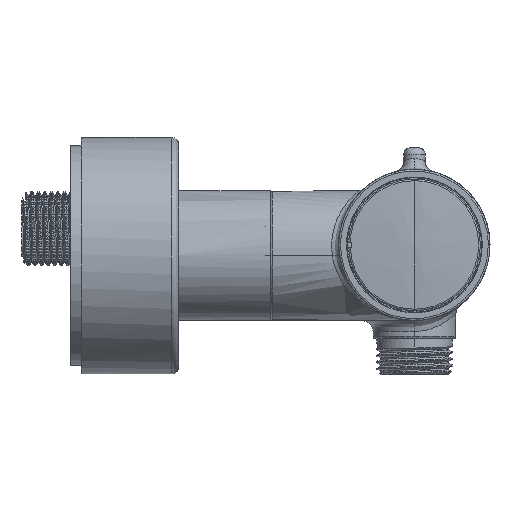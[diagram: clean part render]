
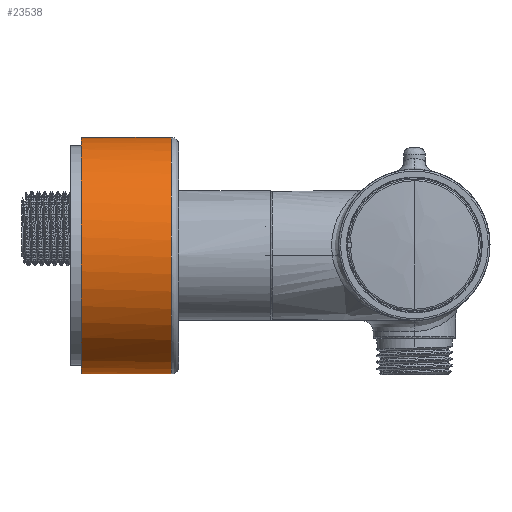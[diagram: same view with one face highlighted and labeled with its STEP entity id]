
A CAD part, left-side view. The second image highlights one B-rep face of the part: STEP entity #23538.
In plain terms, the highlighted free-form (B-spline) face has degree [2, 1] with [9, 2] control points.
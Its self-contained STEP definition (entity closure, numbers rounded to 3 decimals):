
#23538=ADVANCED_FACE('',(#31664),#229497,.T.);
#31664=FACE_OUTER_BOUND('',#39759,.T.);
#39759=EDGE_LOOP('',(#47911,#47912,#47913,#47914));
#47911=ORIENTED_EDGE('',*,*,#95623,.T.);
#47912=ORIENTED_EDGE('',*,*,#95626,.T.);
#47913=ORIENTED_EDGE('',*,*,#95625,.T.);
#47914=ORIENTED_EDGE('',*,*,#95624,.T.);
#95623=EDGE_CURVE('',#184997,#184998,#184213,.T.);
#95624=EDGE_CURVE('',#184999,#184997,#140297,.T.);
#95625=EDGE_CURVE('',#185000,#184999,#184214,.T.);
#95626=EDGE_CURVE('',#184998,#185000,#140298,.T.);
#140297=B_SPLINE_CURVE_WITH_KNOTS('',1,(#248447,#248448),.UNSPECIFIED.,
 .F.,.F.,(2,2),(0.,25.),.UNSPECIFIED.);
#140298=B_SPLINE_CURVE_WITH_KNOTS('',1,(#248454,#248455),.UNSPECIFIED.,
 .F.,.F.,(2,2),(-25.,0.),.UNSPECIFIED.);
#184213=(
BOUNDED_CURVE()
B_SPLINE_CURVE(2,(#248442,#248443,#248444,#248445,#248446),
 .UNSPECIFIED.,.F.,.F.)
B_SPLINE_CURVE_WITH_KNOTS((3,2,3),(-103.201,-51.601,
0.),.UNSPECIFIED.)
CURVE()
GEOMETRIC_REPRESENTATION_ITEM()
RATIONAL_B_SPLINE_CURVE((1.,0.707,1.,0.707,1.))
REPRESENTATION_ITEM('')
);
#184214=(
BOUNDED_CURVE()
B_SPLINE_CURVE(2,(#248449,#248450,#248451,#248452,#248453),
 .UNSPECIFIED.,.F.,.F.)
B_SPLINE_CURVE_WITH_KNOTS((3,2,3),(-103.201,-51.601,
0.),.UNSPECIFIED.)
CURVE()
GEOMETRIC_REPRESENTATION_ITEM()
RATIONAL_B_SPLINE_CURVE((1.,0.707,1.,0.707,1.))
REPRESENTATION_ITEM('')
);
#184997=VERTEX_POINT('',#248434);
#184998=VERTEX_POINT('',#248435);
#184999=VERTEX_POINT('',#248436);
#185000=VERTEX_POINT('',#248437);
#229497=(
BOUNDED_SURFACE()
B_SPLINE_SURFACE(2,1,((#248235,#248236),(#248237,#248238),(#248239,#248240),
(#248241,#248242),(#248243,#248244),(#248245,#248246),(#248247,#248248),
(#248249,#248250),(#248251,#248252)),.UNSPECIFIED.,.T.,.F.,.F.)
B_SPLINE_SURFACE_WITH_KNOTS((3,2,2,2,3),(2,2),(0.,51.601,103.201,
154.802,206.403),(0.,30.24),.UNSPECIFIED.)
GEOMETRIC_REPRESENTATION_ITEM()
RATIONAL_B_SPLINE_SURFACE(((1.,1.),(0.707,0.707),
(1.,1.),(0.707,0.707),(1.,1.),(0.707,
0.707),(1.,1.),(0.707,0.707),(1.,1.)))
REPRESENTATION_ITEM('')
SURFACE()
);
#248235=CARTESIAN_POINT('',(-42.726,51.088,-2.445));
#248236=CARTESIAN_POINT('',(-42.726,20.848,-2.445));
#248237=CARTESIAN_POINT('',(-42.726,51.088,30.405));
#248238=CARTESIAN_POINT('',(-42.726,20.848,30.405));
#248239=CARTESIAN_POINT('',(-75.576,51.088,30.405));
#248240=CARTESIAN_POINT('',(-75.576,20.848,30.405));
#248241=CARTESIAN_POINT('',(-108.426,51.088,30.405));
#248242=CARTESIAN_POINT('',(-108.426,20.848,30.405));
#248243=CARTESIAN_POINT('',(-108.426,51.088,-2.445));
#248244=CARTESIAN_POINT('',(-108.426,20.848,-2.445));
#248245=CARTESIAN_POINT('',(-108.426,51.088,-35.295));
#248246=CARTESIAN_POINT('',(-108.426,20.848,-35.295));
#248247=CARTESIAN_POINT('',(-75.576,51.088,-35.295));
#248248=CARTESIAN_POINT('',(-75.576,20.848,-35.295));
#248249=CARTESIAN_POINT('',(-42.726,51.088,-35.295));
#248250=CARTESIAN_POINT('',(-42.726,20.848,-35.295));
#248251=CARTESIAN_POINT('',(-42.726,51.088,-2.445));
#248252=CARTESIAN_POINT('',(-42.726,20.848,-2.445));
#248434=CARTESIAN_POINT('',(-75.576,23.468,-35.295));
#248435=CARTESIAN_POINT('',(-75.576,23.468,30.405));
#248436=CARTESIAN_POINT('',(-75.576,48.468,-35.295));
#248437=CARTESIAN_POINT('',(-75.576,48.468,30.405));
#248442=CARTESIAN_POINT('',(-75.576,23.468,-35.295));
#248443=CARTESIAN_POINT('',(-108.426,23.468,-35.295));
#248444=CARTESIAN_POINT('',(-108.426,23.468,-2.445));
#248445=CARTESIAN_POINT('',(-108.426,23.468,30.405));
#248446=CARTESIAN_POINT('',(-75.576,23.468,30.405));
#248447=CARTESIAN_POINT('',(-75.576,48.468,-35.295));
#248448=CARTESIAN_POINT('',(-75.576,23.468,-35.295));
#248449=CARTESIAN_POINT('',(-75.576,48.468,30.405));
#248450=CARTESIAN_POINT('',(-108.426,48.468,30.405));
#248451=CARTESIAN_POINT('',(-108.426,48.468,-2.445));
#248452=CARTESIAN_POINT('',(-108.426,48.468,-35.295));
#248453=CARTESIAN_POINT('',(-75.576,48.468,-35.295));
#248454=CARTESIAN_POINT('',(-75.576,23.468,30.405));
#248455=CARTESIAN_POINT('',(-75.576,48.468,30.405));
